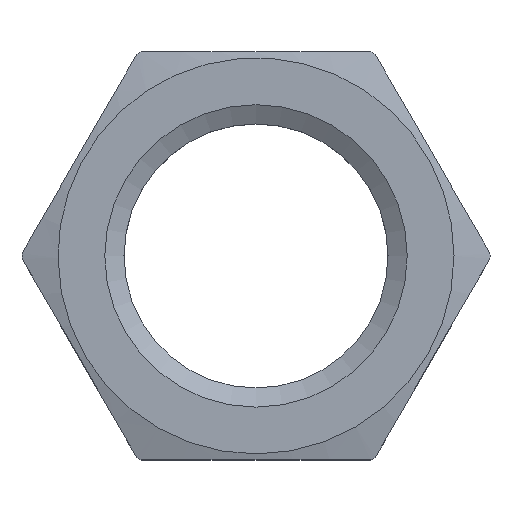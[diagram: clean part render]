
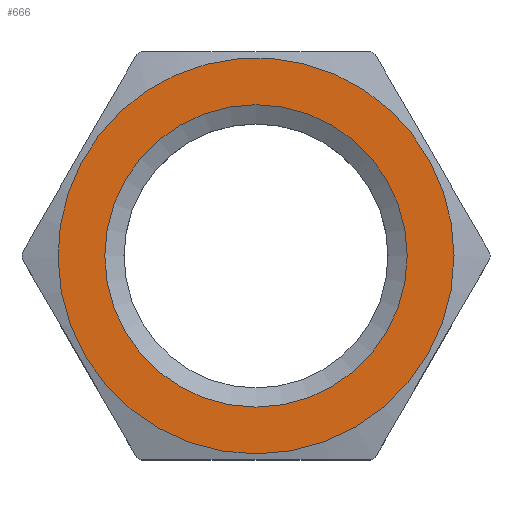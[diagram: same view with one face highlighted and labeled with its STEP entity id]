
A CAD part, top view. The second image highlights one B-rep face of the part: STEP entity #666.
In plain terms, the highlighted planar face has unit normal (0, 0, 1).
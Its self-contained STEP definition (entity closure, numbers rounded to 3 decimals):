
#635=CARTESIAN_POINT('',(6.3,0.,4.0));
#636=VERTEX_POINT('',#635);
#637=CARTESIAN_POINT('',(0.0,0.0,4.0));
#638=DIRECTION('',(0.0,0.0,1.0));
#639=DIRECTION('',(-1.0,0.0,0.0));
#640=AXIS2_PLACEMENT_3D('',#637,#638,#639);
#641=CIRCLE('',#640,6.3);
#642=EDGE_CURVE('',#636,#636,#641,.T.);
#647=CARTESIAN_POINT('',(0.0,0.0,4.0));
#648=DIRECTION('',(0.0,0.0,-1.0));
#649=DIRECTION('',(-1.0,0.0,0.0));
#650=AXIS2_PLACEMENT_3D('',#647,#648,#649);
#651=PLANE('',#650);
#652=CARTESIAN_POINT('',(8.25,0.,4.0));
#653=VERTEX_POINT('',#652);
#654=CARTESIAN_POINT('',(0.0,0.0,4.0));
#655=DIRECTION('',(0.0,0.0,-1.0));
#656=DIRECTION('',(-1.0,0.0,0.0));
#657=AXIS2_PLACEMENT_3D('',#654,#655,#656);
#658=CIRCLE('',#657,8.25);
#659=EDGE_CURVE('',#653,#653,#658,.T.);
#660=ORIENTED_EDGE('',*,*,#659,.F.);
#661=EDGE_LOOP('',(#660));
#662=FACE_OUTER_BOUND('',#661,.T.);
#663=ORIENTED_EDGE('',*,*,#642,.F.);
#664=EDGE_LOOP('',(#663));
#665=FACE_BOUND('',#664,.T.);
#666=ADVANCED_FACE('',(#662,#665),#651,.F.);
